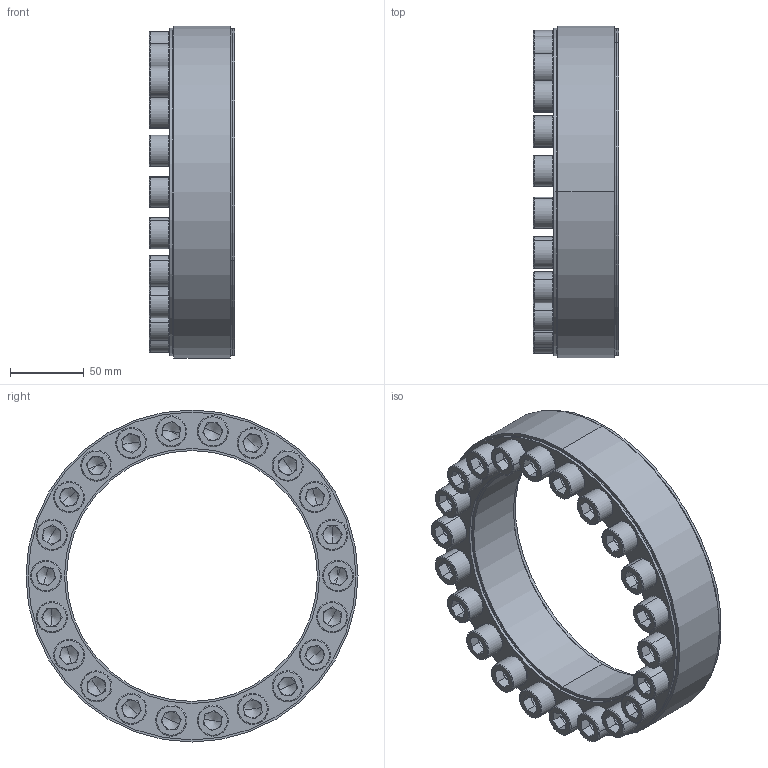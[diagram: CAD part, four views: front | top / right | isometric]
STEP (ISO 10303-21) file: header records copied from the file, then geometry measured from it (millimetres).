
FILE_DESCRIPTION (( 'STEP AP203' ), '1' );
FILE_NAME ('D1-170-225.STEP', '2018-12-15T01:11:05', ( '' ), ( '' ), 'SwSTEP 2.0', 'SolidWorks 2015', '' );
FILE_SCHEMA (( 'CONFIG_CONTROL_DESIGN' ));
Length unit declared in the file: millimetre
Products named in the file (1): D1-170-225
Bounding box: 58 x 225 x 225 mm (x, y, z)
Surface area: 195910.4 mm2 (no closed solid volume)
Topology: 0 solids, 48 shells, 574 faces, 1440 edges, 862 vertices
Faces by surface type: plane 282, cylinder 144, torus 88, cone 60
Entity records: 16740 total; most frequent: DIRECTION 3210, CARTESIAN_POINT 2833, ORIENTED_EDGE 2504, EDGE_CURVE 1396, AXIS2_PLACEMENT_3D 1239, VERTEX_POINT 862, LINE 732, VECTOR 732
